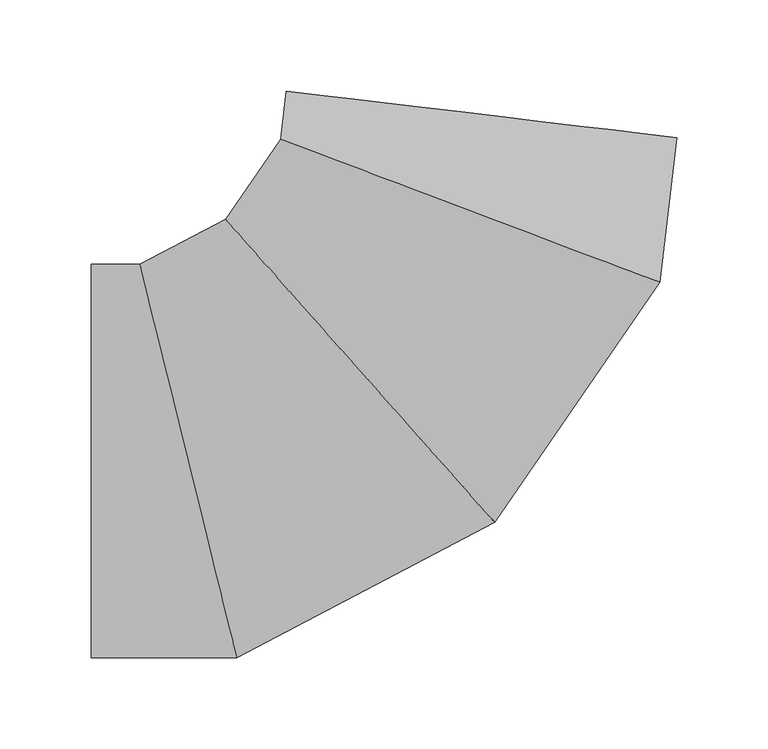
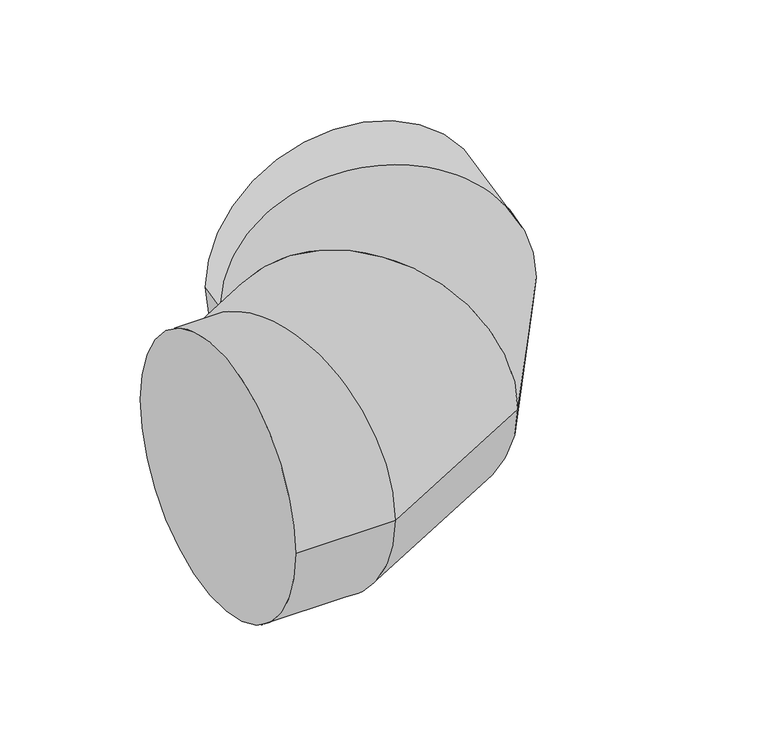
"""IFC4 building model written with IfcOpenShell, lengths in millimetres: duct fitting geometry, 17_Отвод_Заключение : 10_Отвод_3D объект."""

from ifc_helpers import new_model, si_unit, frame, origin, place, context, project, spatial, circle_curve, ellipse_curve, source, transform, mapped, element, save
from ifc_brep_helpers import plane_surface, cylinder_surface, advanced_brep


def duct_fitting_bc9b2c0d(model_context):
    return source(origin(), model_context, "Body", "AdvancedBrep", [
        advanced_brep(
        [(-191.7573313, -108.0, 0.0), (-191.7573313, 108.0, 0.0), (-111.7803263, -108.0, 0.0), (-165.0983297, 108.0, 0.0), (29.8007661, -33.5682888, 0.0), (-117.9046322, 132.8105704, 0.0), (120.4838699, 98.1961223, 0.0), (-87.6769309, 176.7320408, 0.0), (129.9602259, 177.6097233, 0.0), (-84.5181456, 203.2032411, 0.0)],
        [
            (0, 1, circle_curve(frame((-191.7573313, 0.0, 0.0), z_axis=(-1.0, 0.0, 0.0), x_axis=(0.0, 1.0, 0.0)), 108.0)),
            (1, 0, circle_curve(frame((-191.7573313, 0.0, 0.0), z_axis=(-1.0, 0.0, 0.0), x_axis=(0.0, 1.0, 0.0)), 108.0)),
            (0, 2),
            (2, 3, ellipse_curve(frame((-138.439328, 0.0, 0.0), z_axis=(-0.9708594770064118, -0.23964948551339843, 0.0), x_axis=(-0.23964948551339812, 0.9708594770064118, 0.0)), 111.2416396, 108.0)),
            (3, 1),
            (3, 2, ellipse_curve(frame((-138.439328, 0.0, 0.0), z_axis=(-0.9708594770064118, -0.23964948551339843, 0.0), x_axis=(-0.23964948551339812, 0.9708594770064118, 0.0)), 111.2416396, 108.0)),
            (2, 4),
            (4, 5, ellipse_curve(frame((-44.051933, 49.6211408, 0.0), z_axis=(-0.7478263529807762, -0.6638943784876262, 0.0), x_axis=(-0.6638943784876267, 0.7478263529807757, 0.0)), 111.2416396, 108.0)),
            (5, 3),
            (5, 4, ellipse_curve(frame((-44.051933, 49.6211408, 0.0), z_axis=(-0.7478263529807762, -0.6638943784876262, 0.0), x_axis=(-0.6638943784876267, 0.7478263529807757, 0.0)), 111.2416396, 108.0)),
            (4, 6),
            (6, 7, ellipse_curve(frame((16.4034695, 137.4640816, 0.0), z_axis=(-0.35299694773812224, -0.9356244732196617, 0.0), x_axis=(-0.9356244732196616, 0.3529969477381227, 0.0)), 111.2416396, 108.0)),
            (7, 5),
            (7, 6, ellipse_curve(frame((16.4034695, 137.4640816, 0.0), z_axis=(-0.35299694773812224, -0.9356244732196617, 0.0), x_axis=(-0.9356244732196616, 0.3529969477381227, 0.0)), 111.2416396, 108.0)),
            (8, 9, circle_curve(frame((22.7210402, 190.4064822, 0.0), z_axis=(0.11848850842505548, 0.9929554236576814, 0.0), x_axis=(-0.9929554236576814, 0.11848850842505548, 0.0)), 108.0)),
            (9, 8, circle_curve(frame((22.7210402, 190.4064822, 0.0), z_axis=(0.11848850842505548, 0.9929554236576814, 0.0), x_axis=(-0.9929554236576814, 0.11848850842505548, 0.0)), 108.0)),
            (6, 8),
            (9, 7),
        ],
        [
            plane_surface(frame((-191.7573313, 0.0, 0.0), z_axis=(-1.0, 0.0, 0.0), x_axis=(0.0, 0.0, 1.0))),
            cylinder_surface(frame((-191.7573313, 0.0, 0.0), z_axis=(-1.0, 0.0, 0.0), x_axis=(0.0, 1.0, 0.0)), 108.0),
            cylinder_surface(frame((-138.439328, 0.0, 0.0), z_axis=(-0.8851362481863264, -0.4653319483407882, 0.0), x_axis=(-0.4653319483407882, 0.8851362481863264, 0.0)), 108.0),
            cylinder_surface(frame((-44.051933, 49.6211408, 0.0), z_axis=(-0.5669323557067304, -0.8237643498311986, 0.0), x_axis=(-0.8237643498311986, 0.5669323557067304, 0.0)), 108.0),
            plane_surface(frame((22.7210402, 190.4064822, 0.0), z_axis=(0.11848850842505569, 0.9929554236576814, 0.0), x_axis=(0.0, 0.0, 1.0))),
            cylinder_surface(frame((16.4034695, 137.4640816, 0.0), z_axis=(-0.11848850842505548, -0.9929554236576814, 0.0), x_axis=(-0.9929554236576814, 0.11848850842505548, 0.0)), 108.0),
        ],
        [
            (0, [[1, 2]]),
            (1, [[-1, 3, 4, 5]]),
            (1, [[-2, -5, 6, -3]]),
            (2, [[-4, 7, 8, 9]]),
            (2, [[-6, -9, 10, -7]]),
            (3, [[-8, 11, 12, 13]]),
            (3, [[-10, -13, 14, -11]]),
            (4, [[15, 16]]),
            (5, [[-12, 17, -16, 18]]),
            (5, [[-14, -18, -15, -17]]),
        ],
    ),
    ])


if __name__ == "__main__":
    model = new_model("IFC4")
    model_context = context("Model", 3, world=origin())
    ifc_project = project(units=[si_unit("LENGTHUNIT", "METRE", prefix="MILLI")], contexts=[model_context])
    site = spatial("IfcSite", under=ifc_project)
    building = spatial("IfcBuilding", under=site)
    placement = place(None, origin())
    duct_fitting_shape = duct_fitting_bc9b2c0d(model_context)
    element("IfcDuctFitting", 1, ObjectType="17_Отвод_Заключение : 10_Отвод_3D объект", at=placement, inside=building, context=model_context, shape_type="MappedRepresentation", body=[
        mapped(duct_fitting_shape, transform((0.0, 0.0, 0.0), x_axis=(1.0, 0.0, 0.0), y_axis=(0.0, 1.0, 0.0), z_axis=(0.0, 0.0, 1.0))),
    ])
    save(model, "model.ifc")
